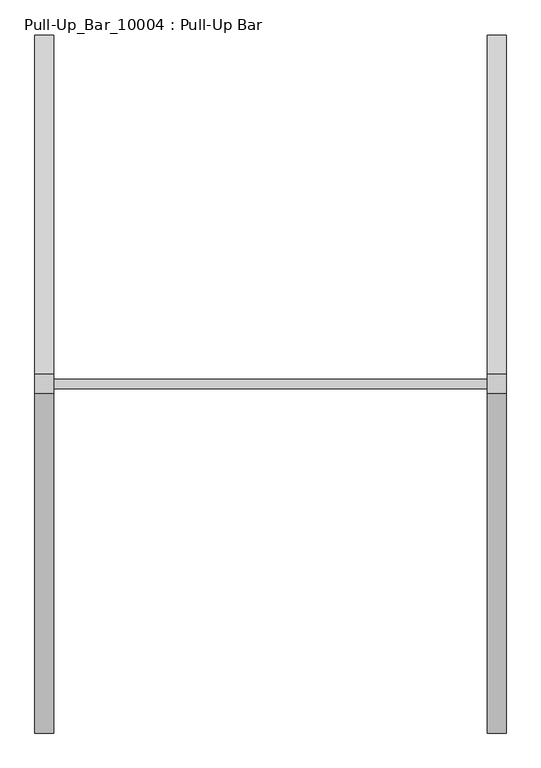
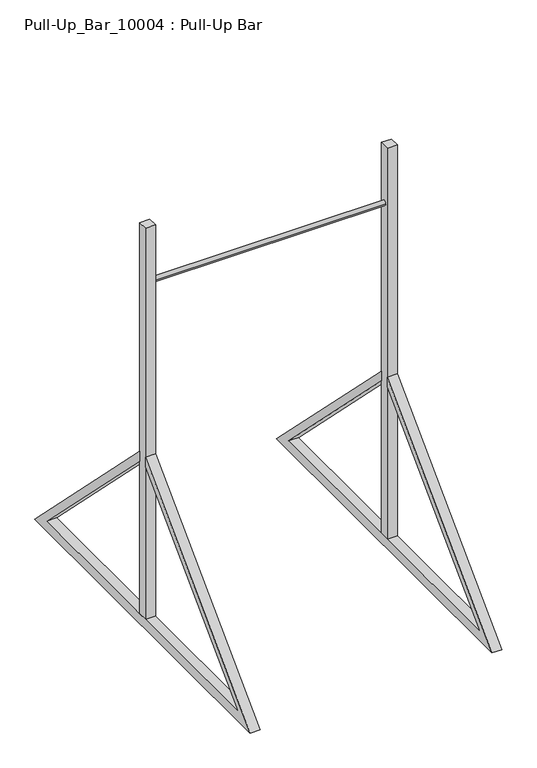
"""IFC4 building model written with IfcOpenShell, lengths in millimetres: proxy geometry, Pull-Up_Bar_10004 : Pull-Up Bar."""

from ifc_helpers import new_model, si_unit, point, frame, frame_2d, origin, place, context, project, spatial, polyline, circle_curve, trimmed, segment, composite_curve, outline, extrude, source, transform, mapped, element, save


def pull_up_bar_10004_pull_up_bar_c63d5902(model_context):
    return source(origin(), model_context, "Body", "SweptSolid", [
        extrude(outline(polyline([(-939.8, 0.0), (-25.4, 914.4), (-25.4, 863.6), (-838.2, 50.8), (838.2, 50.8), (25.4, 863.6), (25.4, 914.4), (939.8, 0.0), (-939.8, 0.0)])), frame((-635.0, 0.0, 0.0), z_axis=(1.0, 0.0, 0.0), x_axis=(0.0, 1.0, 0.0)), (0.0, 0.0, 1.0), 50.8),
        extrude(outline(polyline([(-939.8, 0.0), (-25.4, 914.4), (-25.4, 863.6), (-838.2, 50.8), (838.2, 50.8), (25.4, 863.6), (25.4, 914.4), (939.8, 0.0), (-939.8, 0.0)])), frame((584.2, 0.0, 0.0), z_axis=(1.0, 0.0, 0.0), x_axis=(0.0, 1.0, 0.0)), (0.0, 0.0, 1.0), 50.8),
        extrude(outline(composite_curve([segment(trimmed(circle_curve(frame_2d((0.0, 1828.8)), 12.7), [point((12.7, 1828.8))], [point((-12.7, 1828.8))], False, "CARTESIAN"), True, "CONTINUOUS"), segment(trimmed(circle_curve(frame_2d((0.0, 1828.8)), 12.7), [point((-12.7, 1828.8))], [point((12.7, 1828.8))], False, "CARTESIAN"), True, "CONTINUOUS")], self_intersect=False)), frame((-584.2, 0.0, 0.0), z_axis=(1.0, 0.0, 0.0), x_axis=(0.0, 1.0, 0.0)), (0.0, 0.0, 1.0), 1193.8),
        extrude(outline(polyline([(-635.0, -25.4), (-635.0, 25.4), (-584.2, 25.4), (-584.2, -25.4), (-635.0, -25.4)])), frame((0.0, 0.0, 50.8), z_axis=(0.0, 0.0, 1.0), x_axis=(1.0, 0.0, 0.0)), (0.0, 0.0, 1.0), 2082.8),
        extrude(outline(polyline([(584.2, -25.4), (584.2, 25.4), (635.0, 25.4), (635.0, -25.4), (584.2, -25.4)])), frame((0.0, 0.0, 50.8), z_axis=(0.0, 0.0, 1.0), x_axis=(1.0, 0.0, 0.0)), (0.0, 0.0, 1.0), 2082.8),
    ])


if __name__ == "__main__":
    model = new_model("IFC4")
    model_context = context("Model", 3, world=origin())
    ifc_project = project(units=[si_unit("LENGTHUNIT", "METRE", prefix="MILLI")], contexts=[model_context])
    site = spatial("IfcSite", under=ifc_project)
    building = spatial("IfcBuilding", under=site)
    placement = place(None, origin())
    pull_up_bar_10004_pull_up_bar_shape = pull_up_bar_10004_pull_up_bar_c63d5902(model_context)
    element("IfcBuildingElementProxy", 1, Name="Pull-Up_Bar_10004 : Pull-Up Bar", ObjectType="Pull-Up_Bar_10004 : Pull-Up Bar", at=placement, inside=building, context=model_context, shape_type="MappedRepresentation", body=[
        mapped(pull_up_bar_10004_pull_up_bar_shape, transform((0.0, 0.0, 0.0), x_axis=(1.0, 0.0, 0.0), y_axis=(0.0, 1.0, 0.0), z_axis=(0.0, 0.0, 1.0))),
    ])
    save(model, "model.ifc")
